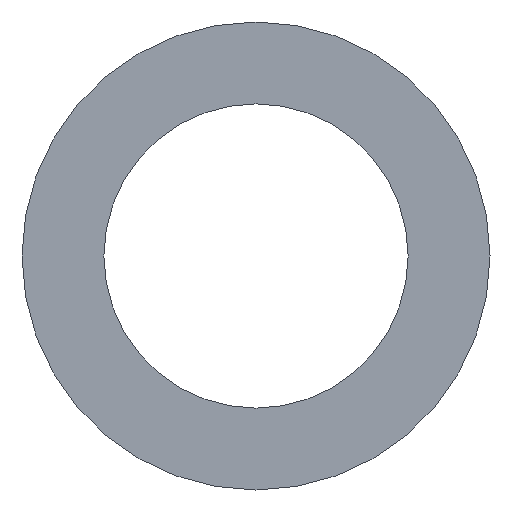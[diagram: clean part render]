
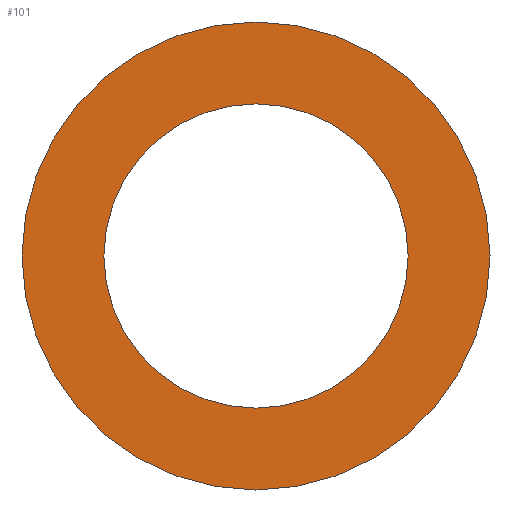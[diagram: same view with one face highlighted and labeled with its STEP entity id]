
A CAD part, left-side view. The second image highlights one B-rep face of the part: STEP entity #101.
In plain terms, the highlighted planar face has unit normal (-1, 0, 0).
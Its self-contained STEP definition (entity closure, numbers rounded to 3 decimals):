
#5 = CIRCLE ( 'NONE', #192, 2.6 ) ;
#23 = DIRECTION ( 'NONE',  ( 1., 0., 0. ) ) ;
#25 = CARTESIAN_POINT ( 'NONE',  ( -1.5, 0., 0. ) ) ;
#30 = PLANE ( 'NONE',  #80 ) ;
#35 = VERTEX_POINT ( 'NONE', #117 ) ;
#38 = VERTEX_POINT ( 'NONE', #121 ) ;
#41 = VERTEX_POINT ( 'NONE', #82 ) ;
#44 = EDGE_LOOP ( 'NONE', ( #126, #171 ) ) ;
#48 = DIRECTION ( 'NONE',  ( 1., 0., 0. ) ) ;
#50 = ORIENTED_EDGE ( 'NONE', *, *, #146, .F. ) ;
#59 = DIRECTION ( 'NONE',  ( 0., 0., -1. ) ) ;
#60 = CIRCLE ( 'NONE', #65, 2.6 ) ;
#62 = CARTESIAN_POINT ( 'NONE',  ( -1.5, 0., 0. ) ) ;
#65 = AXIS2_PLACEMENT_3D ( 'NONE', #201, #202, #187 ) ;
#67 = DIRECTION ( 'NONE',  ( 0., 0., -1. ) ) ;
#70 = EDGE_LOOP ( 'NONE', ( #50, #136 ) ) ;
#73 = FACE_OUTER_BOUND ( 'NONE', #70, .T. ) ;
#74 = CIRCLE ( 'NONE', #157, 4. ) ;
#78 = CARTESIAN_POINT ( 'NONE',  ( -1.5, 0., 2.6 ) ) ;
#80 = AXIS2_PLACEMENT_3D ( 'NONE', #62, #129, #59 ) ;
#82 = CARTESIAN_POINT ( 'NONE',  ( -1.5, 0., -2.6 ) ) ;
#83 = DIRECTION ( 'NONE',  ( 0., 0., -1. ) ) ;
#84 = DIRECTION ( 'NONE',  ( 1., 0., 0. ) ) ;
#85 = CARTESIAN_POINT ( 'NONE',  ( -1.5, 0., 0. ) ) ;
#101 = ADVANCED_FACE ( 'NONE', ( #73, #150 ), #30, .F. ) ;
#117 = CARTESIAN_POINT ( 'NONE',  ( -1.5, 0., 4. ) ) ;
#121 = CARTESIAN_POINT ( 'NONE',  ( -1.5, 0., -4. ) ) ;
#123 = VERTEX_POINT ( 'NONE', #78 ) ;
#126 = ORIENTED_EDGE ( 'NONE', *, *, #195, .T. ) ;
#129 = DIRECTION ( 'NONE',  ( 1., 0., 0. ) ) ;
#133 = CARTESIAN_POINT ( 'NONE',  ( -1.5, 0., 0. ) ) ;
#136 = ORIENTED_EDGE ( 'NONE', *, *, #203, .F. ) ;
#145 = CIRCLE ( 'NONE', #213, 4. ) ;
#146 = EDGE_CURVE ( 'NONE', #35, #38, #74, .T. ) ;
#150 = FACE_BOUND ( 'NONE', #44, .T. ) ;
#157 = AXIS2_PLACEMENT_3D ( 'NONE', #25, #23, #180 ) ;
#164 = EDGE_CURVE ( 'NONE', #41, #123, #60, .T. ) ;
#171 = ORIENTED_EDGE ( 'NONE', *, *, #164, .T. ) ;
#180 = DIRECTION ( 'NONE',  ( 0., 0., -1. ) ) ;
#187 = DIRECTION ( 'NONE',  ( 0., 0., -1. ) ) ;
#192 = AXIS2_PLACEMENT_3D ( 'NONE', #133, #48, #67 ) ;
#195 = EDGE_CURVE ( 'NONE', #123, #41, #5, .T. ) ;
#201 = CARTESIAN_POINT ( 'NONE',  ( -1.5, 0., 0. ) ) ;
#202 = DIRECTION ( 'NONE',  ( 1., 0., 0. ) ) ;
#203 = EDGE_CURVE ( 'NONE', #38, #35, #145, .T. ) ;
#213 = AXIS2_PLACEMENT_3D ( 'NONE', #85, #84, #83 ) ;
